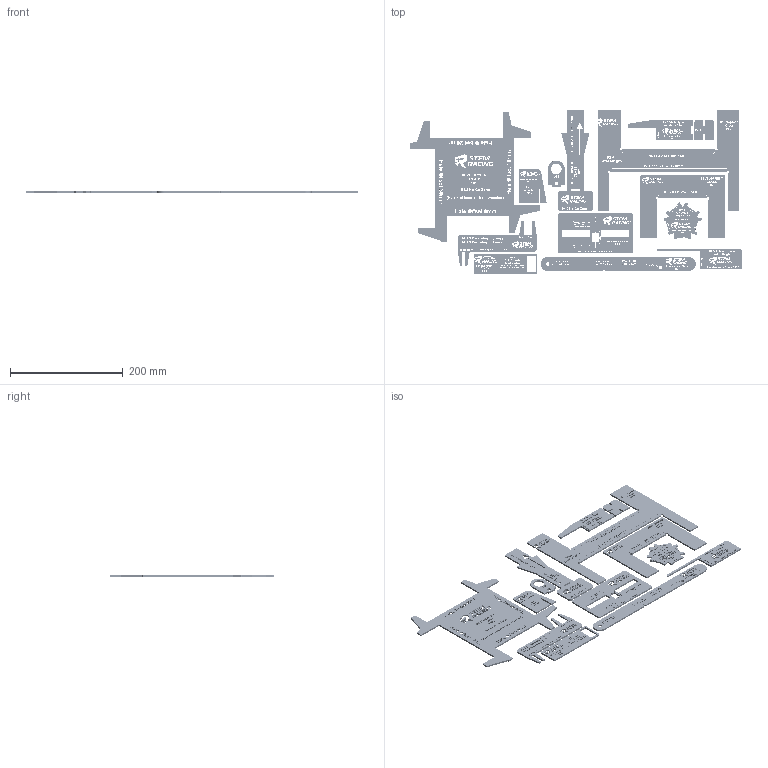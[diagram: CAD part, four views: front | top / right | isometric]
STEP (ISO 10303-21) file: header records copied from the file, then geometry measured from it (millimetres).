
FILE_DESCRIPTION(/* description */ (''),/* implementation_level */ '2;1');
FILE_NAME(/* name */ 'Dev Class Gauges Set 1.step',/* time_stamp */ '2026-09-16T11:09:11-05:00',/* author */ (''),/* organization */ (''),/* preprocessor_version */ 'ST-DEVELOPER v20.2',/* originating_system */ 'Autodesk Translation Framework v15.15.0.0',/* authorisation */ '');
FILE_SCHEMA (('AUTOMOTIVE_DESIGN { 1 0 10303 214 3 1 1 }'));
Products named in the file (55): 2026-06-25-17-02-15-734; 2026-06-25-17-02-15-735; 2026-06-25-17-02-15-736; 2026-06-25-12-09-41-507; 2026-06-25-17-02-15-737; 2026-06-25-17-02-15-738; 2026-06-25-17-02-15-739; 2026-06-25-12-13-31-376; 2026-06-25-17-02-15-740; 2026-06-25-17-02-15-741; 2026-06-25-17-02-15-742; 2026-06-25-12-21-14-505; 2026-06-25-17-02-15-743; 2026-06-25-17-02-15-744; 2026-06-25-17-02-15-745; 2026-06-25-13-42-31-493; 2026-06-25-17-02-15-746; 2026-06-25-17-02-15-747; 2026-06-25-17-02-15-748; 2026-06-25-13-45-00-011; 2026-06-25-17-02-15-749; 2026-06-25-17-02-15-750; 2026-06-25-17-02-15-751; 2026-06-25-13-47-04-942; 2026-06-25-17-02-15-752; 2026-06-25-17-02-15-753; 2026-06-25-17-02-15-754; 2026-06-25-13-52-16-924; 2026-06-25-17-02-15-755; 2026-06-25-17-02-15-756; 2026-06-25-17-02-15-757; 2026-06-25-17-02-15-758; 2026-06-25-17-02-15-759; 2026-06-25-17-02-15-760; 2026-06-25-13-57-38-314; 2026-06-25-17-02-15-761; 2026-06-25-17-02-15-762; 2026-06-25-17-02-15-763; 2026-06-25-14-03-17-846; 2026-06-25-17-02-15-764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
Assembly tree (54 placements, depth 5):
  2026-06-25-17-02-15-734
    2026-06-25-17-02-15-735
      2026-06-25-17-02-15-736
        2026-06-25-12-09-41-507
      2026-06-25-17-02-15-737
        2026-06-25-17-02-15-738
          2026-06-25-17-02-15-739
        2026-06-25-12-13-31-376
      2026-06-25-17-02-15-740
        2026-06-25-17-02-15-741
          2026-06-25-17-02-15-742
        2026-06-25-12-21-14-505
      2026-06-25-17-02-15-743
        2026-06-25-17-02-15-744
          2026-06-25-17-02-15-745
        2026-06-25-13-42-31-493
      2026-06-25-17-02-15-746
        2026-06-25-17-02-15-747
          2026-06-25-17-02-15-748
        2026-06-25-13-45-00-011
      2026-06-25-17-02-15-749
        2026-06-25-17-02-15-750
          2026-06-25-17-02-15-751
        2026-06-25-13-47-04-942
      2026-06-25-17-02-15-752
        2026-06-25-17-02-15-753
          2026-06-25-17-02-15-754
        2026-06-25-13-52-16-924
      2026-06-25-17-02-15-755
        2026-06-25-17-02-15-756
          2026-06-25-17-02-15-757
          2026-06-25-17-02-15-758
        2026-06-25-17-02-15-759
          2026-06-25-17-02-15-760
        2026-06-25-13-57-38-314
      2026-06-25-17-02-15-761
        2026-06-25-17-02-15-762
          2026-06-25-17-02-15-763
        2026-06-25-14-03-17-846
      2026-06-25-17-02-15-764
        2026-06-25-17-02-15-765
          2026-06-25-17-02-15-766
      2026-06-25-17-02-15-767
        2026-06-25-17-02-15-768
          2026-06-25-17-02-15-769
        2026-06-25-14-16-41-031
      2026-06-25-17-02-15-770
        2026-06-25-17-02-15-771
          2026-06-25-17-02-15-772
      2026-06-25-17-02-15-773
        2026-06-25-17-02-15-774
          2026-06-25-17-02-15-775
    2026-09-02-13-49-28-887
    2026-09-02-14-54-51-550
    2026-09-02-17-33-29-475
Bounding box: 588.79 x 291.37 x 3 mm (x, y, z)
Volume: 265919.7 mm3; surface area: 251692 mm2
Topology: 17 solids, 17 shells, 16755 faces, 50163 edges, 33436 vertices
Faces by surface type: bspline 9252, plane 7500, cylinder 3
Full cylindrical faces by diameter (mm): 19 x1
Entity records: 643503 total; most frequent: CARTESIAN_POINT 241471, ORIENTED_EDGE 100326, DIRECTION 54103, EDGE_CURVE 50163, VERTEX_POINT 33436, LINE 31647, VECTOR 31647, EDGE_LOOP 19109
